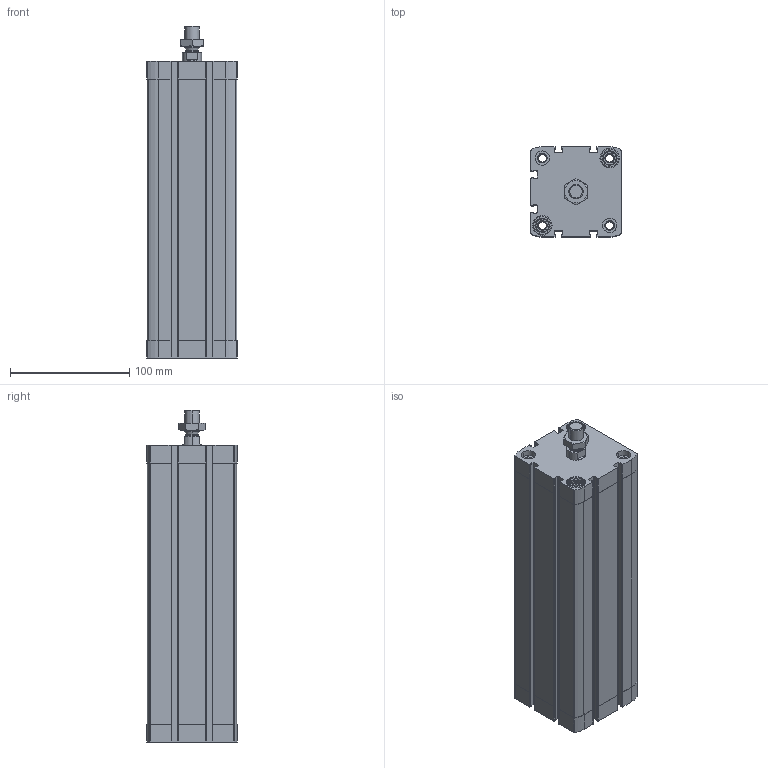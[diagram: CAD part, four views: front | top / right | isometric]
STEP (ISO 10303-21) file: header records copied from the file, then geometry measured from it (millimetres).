
FILE_DESCRIPTION (( 'STEP AP203' ), '1' );
FILE_NAME ('CCN63-200M.STEP', '2017-04-05T18:25:06', ( '' ), ( '' ), 'SwSTEP 2.0', 'SolidWorks 2016', '' );
FILE_SCHEMA (( 'CONFIG_CONTROL_DESIGN' ));
Length unit declared in the file: millimetre
Products named in the file (4): CCN---(Z); CCN_(KS); _DIN-439-B - M12x1.25(F); CCN63-200M
Assembly tree (3 placements, depth 2):
  CCN63-200M
    CCN---(Z)
    CCN_(KS)
    _DIN-439-B - M12x1.25(F)
Bounding box: 75.5 x 75.5 x 278.5 mm (x, y, z)
Volume: 727611.8 mm3; surface area: 198764.4 mm2
Topology: 3 solids, 3 shells, 491 faces, 1322 edges, 868 vertices
Faces by surface type: plane 227, cylinder 212, cone 48, bspline 4
Entity records: 16132 total; most frequent: CARTESIAN_POINT 3147, DIRECTION 2684, ORIENTED_EDGE 2644, EDGE_CURVE 1322, AXIS2_PLACEMENT_3D 983, VERTEX_POINT 868, LINE 718, VECTOR 718
